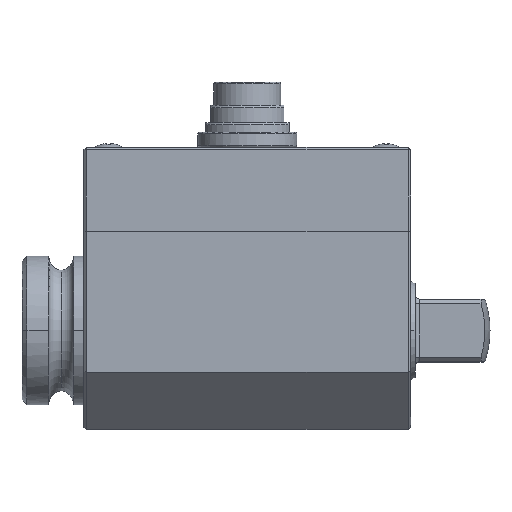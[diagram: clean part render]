
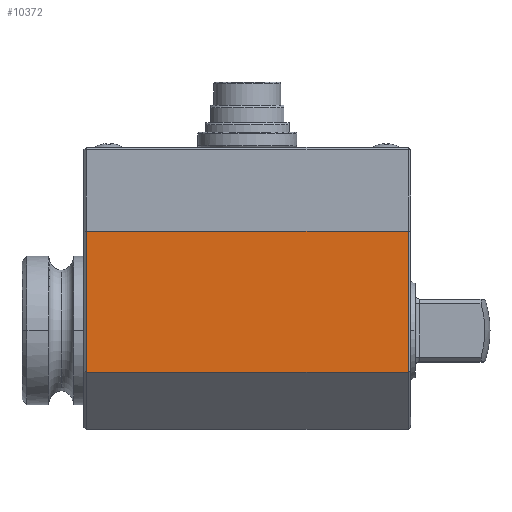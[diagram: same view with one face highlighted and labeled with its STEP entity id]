
A CAD part, top view. The second image highlights one B-rep face of the part: STEP entity #10372.
In plain terms, the highlighted planar face has unit normal (0, 0, 1).
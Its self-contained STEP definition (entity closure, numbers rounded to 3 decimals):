
#155 = ORIENTED_EDGE ( 'NONE', *, *, #2761, .T. ) ;
#410 = DIRECTION ( 'NONE',  ( -1., 0., 0. ) ) ;
#419 = EDGE_LOOP ( 'NONE', ( #155, #10555, #6403, #3885 ) ) ;
#896 = EDGE_CURVE ( 'NONE', #1222, #4498, #8405, .T. ) ;
#1222 = VERTEX_POINT ( 'NONE', #8108 ) ;
#2046 = CARTESIAN_POINT ( 'NONE',  ( 65.5, 20., 20. ) ) ;
#2306 = DIRECTION ( 'NONE',  ( -1., 0., 0. ) ) ;
#2723 = CARTESIAN_POINT ( 'NONE',  ( 66., 20., 20. ) ) ;
#2761 = EDGE_CURVE ( 'NONE', #6715, #1222, #2781, .T. ) ;
#2764 = CARTESIAN_POINT ( 'NONE',  ( 65.5, -8.5, 20. ) ) ;
#2781 = LINE ( 'NONE', #2723, #3423 ) ;
#3326 = VECTOR ( 'NONE', #3462, 1000. ) ;
#3423 = VECTOR ( 'NONE', #2306, 1000. ) ;
#3462 = DIRECTION ( 'NONE',  ( 1., 0., 0. ) ) ;
#3735 = CARTESIAN_POINT ( 'NONE',  ( 65.5, 20., 20. ) ) ;
#3885 = ORIENTED_EDGE ( 'NONE', *, *, #9843, .T. ) ;
#4160 = VECTOR ( 'NONE', #7056, 1000. ) ;
#4310 = LINE ( 'NONE', #2046, #4160 ) ;
#4498 = VERTEX_POINT ( 'NONE', #9919 ) ;
#4554 = PLANE ( 'NONE',  #10686 ) ;
#5124 = DIRECTION ( 'NONE',  ( 0., -1., 0. ) ) ;
#5213 = EDGE_CURVE ( 'NONE', #4498, #10294, #7786, .T. ) ;
#5432 = DIRECTION ( 'NONE',  ( 0., 0., -1. ) ) ;
#5648 = CARTESIAN_POINT ( 'NONE',  ( 0.5, 20., 20. ) ) ;
#6403 = ORIENTED_EDGE ( 'NONE', *, *, #5213, .T. ) ;
#6715 = VERTEX_POINT ( 'NONE', #3735 ) ;
#7056 = DIRECTION ( 'NONE',  ( 0., 1., 0. ) ) ;
#7364 = FACE_OUTER_BOUND ( 'NONE', #419, .T. ) ;
#7777 = VECTOR ( 'NONE', #5124, 1000. ) ;
#7786 = LINE ( 'NONE', #9326, #3326 ) ;
#7898 = CARTESIAN_POINT ( 'NONE',  ( 66., 20., 20. ) ) ;
#8108 = CARTESIAN_POINT ( 'NONE',  ( 0.5, 20., 20. ) ) ;
#8405 = LINE ( 'NONE', #5648, #7777 ) ;
#9326 = CARTESIAN_POINT ( 'NONE',  ( 66., -8.5, 20. ) ) ;
#9843 = EDGE_CURVE ( 'NONE', #10294, #6715, #4310, .T. ) ;
#9919 = CARTESIAN_POINT ( 'NONE',  ( 0.5, -8.5, 20. ) ) ;
#10294 = VERTEX_POINT ( 'NONE', #2764 ) ;
#10372 = ADVANCED_FACE ( 'NONE', ( #7364 ), #4554, .F. ) ;
#10555 = ORIENTED_EDGE ( 'NONE', *, *, #896, .T. ) ;
#10686 = AXIS2_PLACEMENT_3D ( 'NONE', #7898, #5432, #410 ) ;
